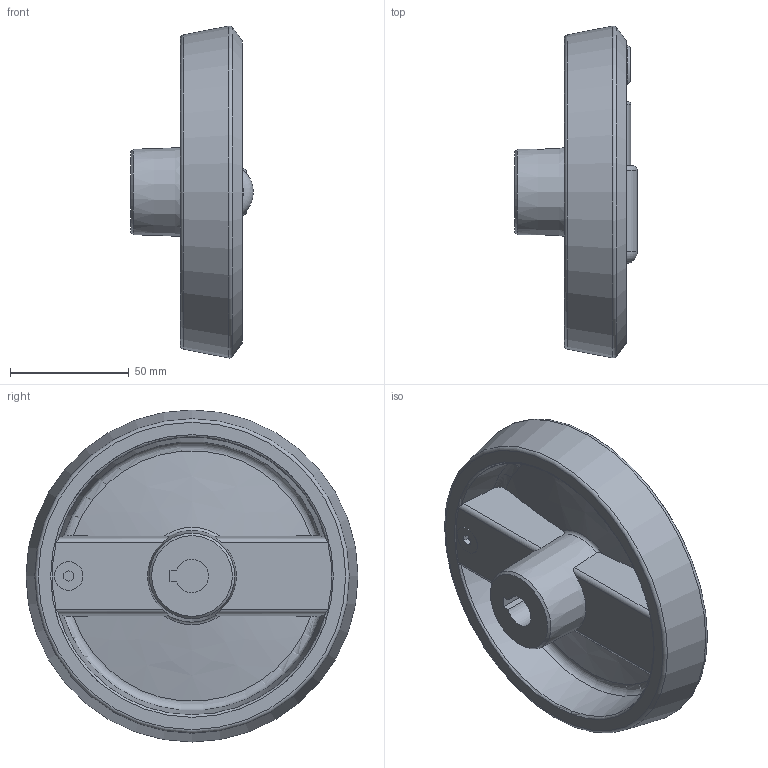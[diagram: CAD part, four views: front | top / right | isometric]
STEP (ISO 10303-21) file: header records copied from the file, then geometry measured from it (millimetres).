
FILE_DESCRIPTION( ( 'STEP AP203' ), '1' );
FILE_NAME( 'C:/Temp/Ganter_Step_05_03_2020/data/1_3/gn_923_7/gn_923_7_k/Handwheel with retractable handle GN 923.7-140-K14-R-SW (unactivated).stp', '2020-03-05T10:40:24', ( 'License CC BY-ND 4.0' ), ( 'CADENAS' ), ' ', 'PARTsolutions', ' ' );
FILE_SCHEMA( ( 'CONFIG_CONTROL_DESIGN' ) );
Length unit declared in the file: millimetre
Products named in the file (3): Handwheel with retractable handle GN 923.7-140-K14-R-SW (unactivated); _Umleggriff-Handrad GN 923.7-140-K14-R-SW-1; _Umleggriff-Handrad GN 923.7-140-K14-R-SW (0)-2
Assembly tree (2 placements, depth 2):
  Handwheel with retractable handle GN 923.7-140-K14-R-SW (unactivated)
    _Umleggriff-Handrad GN 923.7-140-K14-R-SW-1
    _Umleggriff-Handrad GN 923.7-140-K14-R-SW (0)-2
Bounding box: 51.7 x 140 x 140 mm (x, y, z)
Volume: 216525 mm3; surface area: 65389.4 mm2
Topology: 2 solids, 2 shells, 116 faces, 284 edges, 180 vertices
Faces by surface type: plane 50, cylinder 28, torus 15, cone 14, bspline 7, sphere 2
Full cylindrical faces by diameter (mm): 4 x2, 5 x1, 8 x1, 12 x1, 15 x1, 18.5 x1, 20 x1, 23 x2, 24 x1
Entity records: 3846 total; most frequent: CARTESIAN_POINT 1207, DIRECTION 519, ORIENTED_EDGE 500, EDGE_CURVE 250, AXIS2_PLACEMENT_3D 218, VERTEX_POINT 174, EDGE_LOOP 153, FACE_OUTER_BOUND 134
